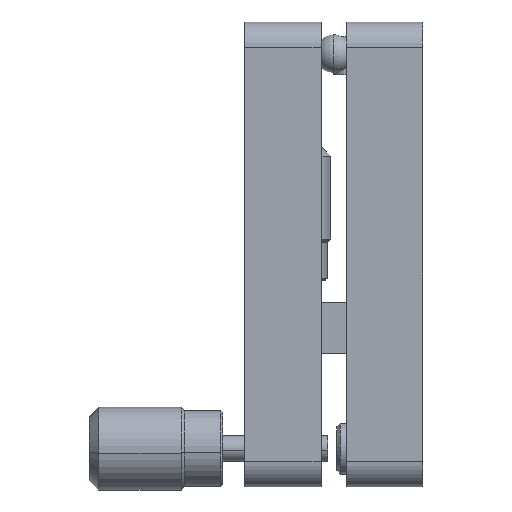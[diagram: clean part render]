
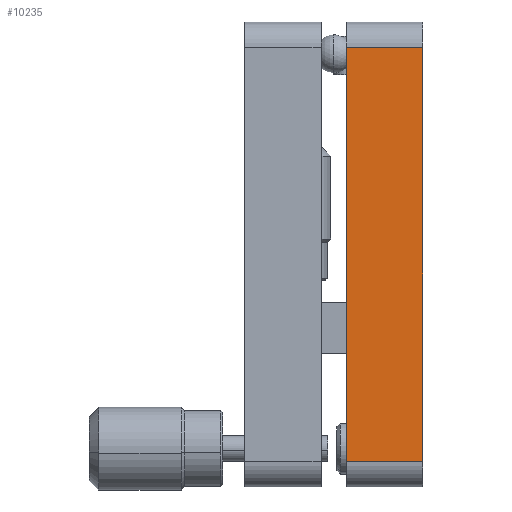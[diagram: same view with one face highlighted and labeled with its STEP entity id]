
A CAD part, left-side view. The second image highlights one B-rep face of the part: STEP entity #10235.
In plain terms, the highlighted planar face has unit normal (-1, 0, 0).
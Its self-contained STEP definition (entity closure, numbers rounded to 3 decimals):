
#121 = EDGE_LOOP ( 'NONE', ( #3641, #235, #11274, #10320 ) ) ;
#235 = ORIENTED_EDGE ( 'NONE', *, *, #3647, .T. ) ;
#1035 = CARTESIAN_POINT ( 'NONE',  ( -35., 0., -34. ) ) ;
#1132 = CARTESIAN_POINT ( 'NONE',  ( -35., -12., -34. ) ) ;
#2246 = CARTESIAN_POINT ( 'NONE',  ( -35., 0., 31. ) ) ;
#2683 = VECTOR ( 'NONE', #3272, 1000. ) ;
#3003 = VECTOR ( 'NONE', #7822, 1000. ) ;
#3085 = VERTEX_POINT ( 'NONE', #1132 ) ;
#3272 = DIRECTION ( 'NONE',  ( 0., 0., 1. ) ) ;
#3311 = CARTESIAN_POINT ( 'NONE',  ( -35., -12., -38. ) ) ;
#3384 = LINE ( 'NONE', #4424, #4084 ) ;
#3641 = ORIENTED_EDGE ( 'NONE', *, *, #5367, .F. ) ;
#3647 = EDGE_CURVE ( 'NONE', #9957, #3085, #3727, .T. ) ;
#3727 = LINE ( 'NONE', #8175, #3003 ) ;
#4084 = VECTOR ( 'NONE', #4289, 1000. ) ;
#4289 = DIRECTION ( 'NONE',  ( 0., 0., 1. ) ) ;
#4424 = CARTESIAN_POINT ( 'NONE',  ( -35., 0., -38. ) ) ;
#4600 = EDGE_CURVE ( 'NONE', #6371, #9097, #9749, .T. ) ;
#4630 = DIRECTION ( 'NONE',  ( 0., 0., 1. ) ) ;
#5367 = EDGE_CURVE ( 'NONE', #9957, #9097, #3384, .T. ) ;
#5612 = CARTESIAN_POINT ( 'NONE',  ( -35., -12., 31. ) ) ;
#6106 = LINE ( 'NONE', #3311, #2683 ) ;
#6371 = VERTEX_POINT ( 'NONE', #5612 ) ;
#6439 = CARTESIAN_POINT ( 'NONE',  ( -35., -12., 31. ) ) ;
#6780 = DIRECTION ( 'NONE',  ( 0., 1., 0. ) ) ;
#7046 = FACE_OUTER_BOUND ( 'NONE', #121, .T. ) ;
#7822 = DIRECTION ( 'NONE',  ( 0., -1., 0. ) ) ;
#8175 = CARTESIAN_POINT ( 'NONE',  ( -35., -12., -34. ) ) ;
#9026 = DIRECTION ( 'NONE',  ( -1., 0., 0. ) ) ;
#9097 = VERTEX_POINT ( 'NONE', #2246 ) ;
#9246 = AXIS2_PLACEMENT_3D ( 'NONE', #10256, #9026, #4630 ) ;
#9460 = VECTOR ( 'NONE', #6780, 1000. ) ;
#9749 = LINE ( 'NONE', #6439, #9460 ) ;
#9951 = EDGE_CURVE ( 'NONE', #3085, #6371, #6106, .T. ) ;
#9957 = VERTEX_POINT ( 'NONE', #1035 ) ;
#10174 = PLANE ( 'NONE',  #9246 ) ;
#10235 = ADVANCED_FACE ( 'NONE', ( #7046 ), #10174, .T. ) ;
#10256 = CARTESIAN_POINT ( 'NONE',  ( -35., -12., -38. ) ) ;
#10320 = ORIENTED_EDGE ( 'NONE', *, *, #4600, .T. ) ;
#11274 = ORIENTED_EDGE ( 'NONE', *, *, #9951, .T. ) ;
